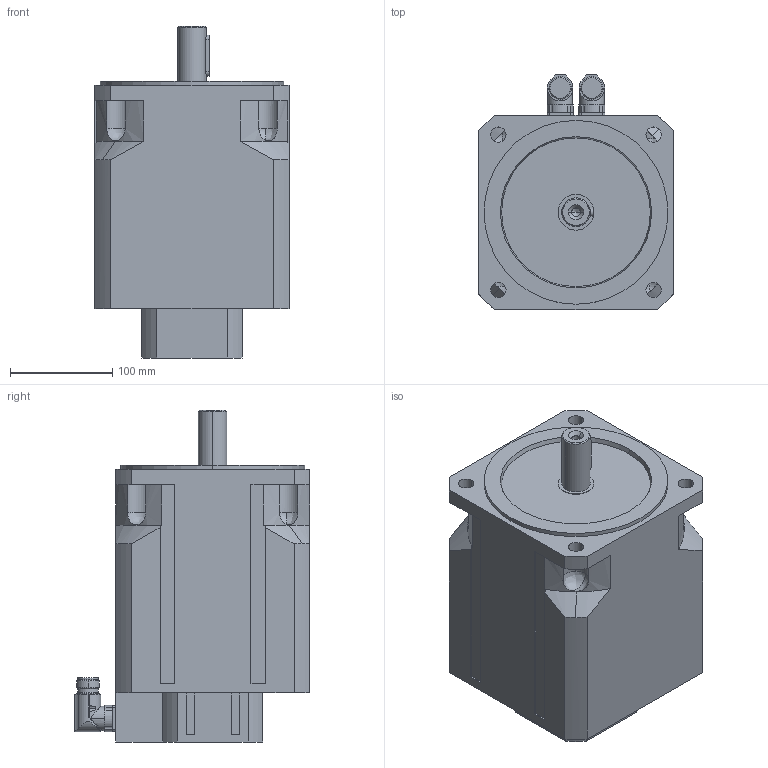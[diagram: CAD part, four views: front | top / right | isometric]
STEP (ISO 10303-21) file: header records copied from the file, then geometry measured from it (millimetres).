
FILE_DESCRIPTION(('STEP AP203'),'2;1');
FILE_NAME('MT7-3200_X.stp','2006-08-28T20:59:36',(''),(''),'2005.2.102','THINKDESIGN','');
FILE_SCHEMA(('CONFIG_CONTROL_DESIGN'));
Length unit declared in the file: millimetre
Bounding box: 190 x 230.5 x 325 mm (x, y, z)
Volume: 8287634.7 mm3; surface area: 291975.1 mm2
Topology: 3 solids, 3 shells, 275 faces, 749 edges, 481 vertices
Faces by surface type: cylinder 120, plane 107, bspline 48
Full cylindrical faces by diameter (mm): 20 x2
Entity records: 9842 total; most frequent: CARTESIAN_POINT 2891, ORIENTED_EDGE 1478, DIRECTION 1427, EDGE_CURVE 739, AXIS2_PLACEMENT_3D 539, VERTEX_POINT 481, VECTOR 349, LINE 349
